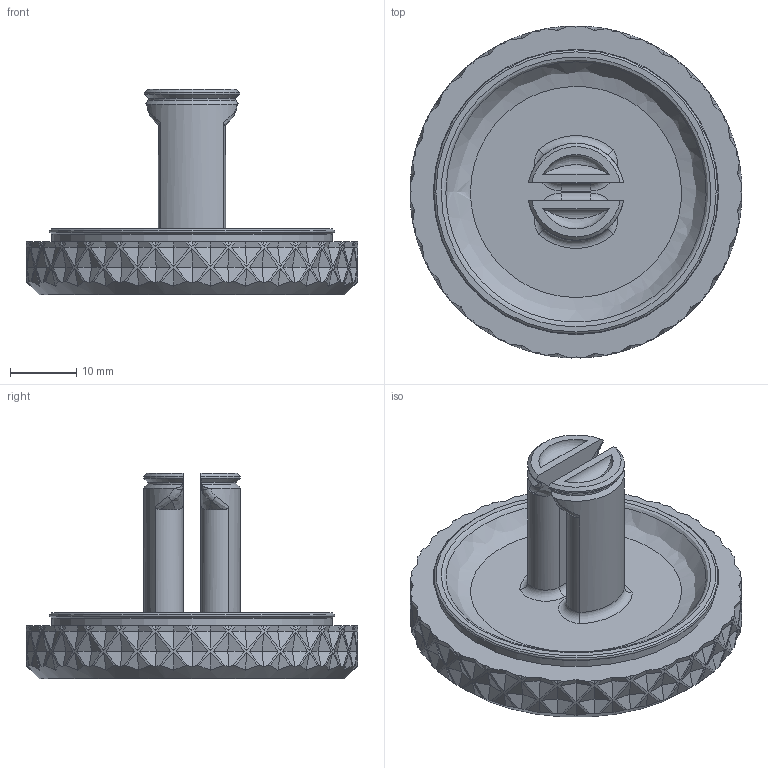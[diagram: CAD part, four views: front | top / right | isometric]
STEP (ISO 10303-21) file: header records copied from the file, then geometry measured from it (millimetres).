
FILE_DESCRIPTION(/* description */ (''),/* implementation_level */ '2;1');
FILE_NAME(/* name */ 'D:/3d print filer/STL filer/Cable Winder/STL/Version 4/Model 1/Step files/Model 1 Medium lid.step',/* time_stamp */ '2022-10-10T12:00:17+02:00',/* author */ (''),/* organization */ (''),/* preprocessor_version */ 'ST-DEVELOPER v19',/* originating_system */ 'Autodesk Translation Framework v11.7.0.108',/* authorisation */ '');
FILE_SCHEMA (('AUTOMOTIVE_DESIGN { 1 0 10303 214 3 1 1 }'));
Length unit declared in the file: millimetre
Products named in the file (1): Model 1 Medium lid
Bounding box: 50 x 50 x 31 mm (x, y, z)
Volume: 17166.9 mm3; surface area: 6842.3 mm2
Topology: 1 solids, 1 shells, 402 faces, 1111 edges, 717 vertices
Faces by surface type: plane 346, bspline 18, cylinder 16, cone 13, torus 9
Full cylindrical faces by diameter (mm): 42.2 x1, 50 x1
Entity records: 13994 total; most frequent: CARTESIAN_POINT 3783, ORIENTED_EDGE 2222, DIRECTION 2201, EDGE_CURVE 1111, AXIS2_PLACEMENT_3D 893, VERTEX_POINT 717, LINE 415, VECTOR 415
